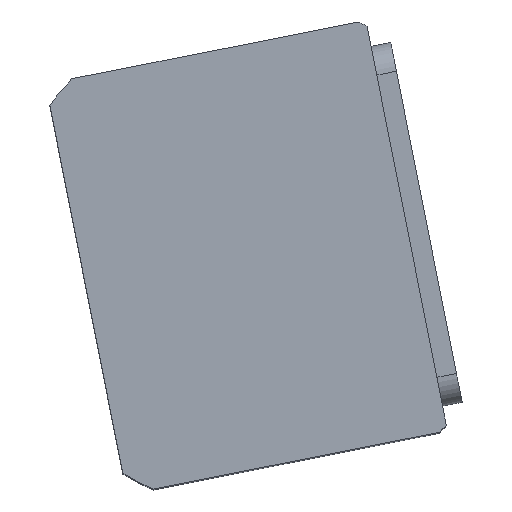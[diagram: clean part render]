
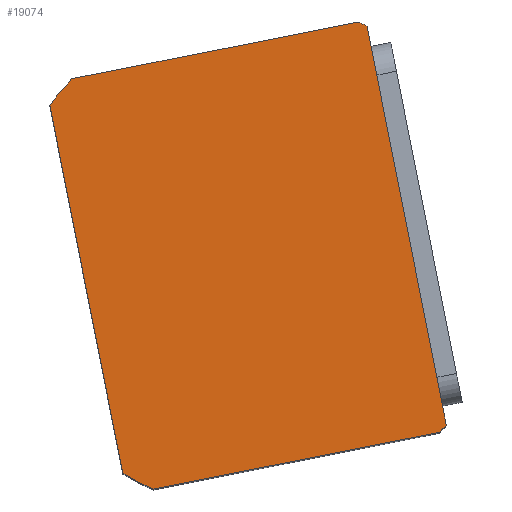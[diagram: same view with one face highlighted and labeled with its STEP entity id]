
A CAD part, top view. The second image highlights one B-rep face of the part: STEP entity #19074.
In plain terms, the highlighted planar face has unit normal (0, 0, 1) as drawn and (0, 0, -1) by its records, which use the part's own axes.
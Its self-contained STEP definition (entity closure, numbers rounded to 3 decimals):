
#319 = CARTESIAN_POINT ( 'NONE',  ( -51.14, -44.5, 0. ) ) ;
#527 = CARTESIAN_POINT ( 'NONE',  ( 57., 42.328, 0. ) ) ;
#632 = DIRECTION ( 'NONE',  ( 0., 0., 1. ) ) ;
#783 = LINE ( 'NONE', #6835, #4906 ) ;
#825 = PLANE ( 'NONE',  #2189 ) ;
#1003 = CARTESIAN_POINT ( 'NONE',  ( 0., 2.563, 0. ) ) ;
#1627 = CARTESIAN_POINT ( 'NONE',  ( -57., -37.202, 0. ) ) ;
#1706 = DIRECTION ( 'NONE',  ( 0., 1., 0. ) ) ;
#2189 = AXIS2_PLACEMENT_3D ( 'NONE', #2597, #22019, #6156 ) ;
#2244 = EDGE_CURVE ( 'NONE', #15530, #6175, #21831, .T. ) ;
#2597 = CARTESIAN_POINT ( 'NONE',  ( 0., 0., 0. ) ) ;
#2780 = DIRECTION ( 'NONE',  ( 1., 0., 0. ) ) ;
#2809 = EDGE_CURVE ( 'NONE', #19567, #9510, #783, .T. ) ;
#3046 = ORIENTED_EDGE ( 'NONE', *, *, #19741, .F. ) ;
#4692 = EDGE_CURVE ( 'NONE', #9510, #7772, #20196, .T. ) ;
#4906 = VECTOR ( 'NONE', #12080, 1000. ) ;
#5045 = AXIS2_PLACEMENT_3D ( 'NONE', #11194, #632, #12987 ) ;
#5242 = EDGE_LOOP ( 'NONE', ( #8330, #22177, #11050, #3046, #7664, #9451, #13796, #8054 ) ) ;
#5529 = CARTESIAN_POINT ( 'NONE',  ( 0., 2.563, 0. ) ) ;
#5796 = EDGE_CURVE ( 'NONE', #21569, #18870, #9366, .T. ) ;
#6156 = DIRECTION ( 'NONE',  ( 1., 0., 0. ) ) ;
#6175 = VERTEX_POINT ( 'NONE', #319 ) ;
#6659 = EDGE_CURVE ( 'NONE', #19393, #21569, #9063, .T. ) ;
#6835 = CARTESIAN_POINT ( 'NONE',  ( -57., 44.5, 0. ) ) ;
#7169 = CARTESIAN_POINT ( 'NONE',  ( -57., 42.328, 0. ) ) ;
#7303 = DIRECTION ( 'NONE',  ( 1., 0., 0. ) ) ;
#7585 = AXIS2_PLACEMENT_3D ( 'NONE', #5529, #17917, #7303 ) ;
#7586 = CARTESIAN_POINT ( 'NONE',  ( 57., -37.202, 0. ) ) ;
#7600 = LINE ( 'NONE', #18752, #17574 ) ;
#7664 = ORIENTED_EDGE ( 'NONE', *, *, #2244, .F. ) ;
#7772 = VERTEX_POINT ( 'NONE', #7169 ) ;
#8041 = AXIS2_PLACEMENT_3D ( 'NONE', #18895, #8271, #20649 ) ;
#8054 = ORIENTED_EDGE ( 'NONE', *, *, #2809, .F. ) ;
#8271 = DIRECTION ( 'NONE',  ( 0., 0., 1. ) ) ;
#8330 = ORIENTED_EDGE ( 'NONE', *, *, #12268, .F. ) ;
#8652 = CARTESIAN_POINT ( 'NONE',  ( -57., 44.5, 0. ) ) ;
#8887 = CIRCLE ( 'NONE', #7585, 69.5 ) ;
#9063 = CIRCLE ( 'NONE', #16204, 69.5 ) ;
#9366 = LINE ( 'NONE', #21122, #18793 ) ;
#9451 = ORIENTED_EDGE ( 'NONE', *, *, #10160, .F. ) ;
#9510 = VERTEX_POINT ( 'NONE', #17258 ) ;
#9963 = DIRECTION ( 'NONE',  ( 1., 0., 0. ) ) ;
#10160 = EDGE_CURVE ( 'NONE', #7772, #15530, #16964, .T. ) ;
#11050 = ORIENTED_EDGE ( 'NONE', *, *, #6659, .F. ) ;
#11194 = CARTESIAN_POINT ( 'NONE',  ( 0., 2.563, 0. ) ) ;
#12080 = DIRECTION ( 'NONE',  ( -1., 0., 0. ) ) ;
#12268 = EDGE_CURVE ( 'NONE', #18870, #19567, #8887, .T. ) ;
#12987 = DIRECTION ( 'NONE',  ( 1., 0., 0. ) ) ;
#13367 = DIRECTION ( 'NONE',  ( 0., 0., 1. ) ) ;
#13796 = ORIENTED_EDGE ( 'NONE', *, *, #4692, .F. ) ;
#14944 = CARTESIAN_POINT ( 'NONE',  ( 55.421, 44.5, 0. ) ) ;
#15530 = VERTEX_POINT ( 'NONE', #1627 ) ;
#16187 = FACE_OUTER_BOUND ( 'NONE', #5242, .T. ) ;
#16204 = AXIS2_PLACEMENT_3D ( 'NONE', #1003, #13367, #2780 ) ;
#16964 = LINE ( 'NONE', #8652, #21103 ) ;
#17258 = CARTESIAN_POINT ( 'NONE',  ( -55.421, 44.5, 0. ) ) ;
#17574 = VECTOR ( 'NONE', #9963, 1000. ) ;
#17917 = DIRECTION ( 'NONE',  ( 0., 0., 1. ) ) ;
#18752 = CARTESIAN_POINT ( 'NONE',  ( -57., -44.5, 0. ) ) ;
#18793 = VECTOR ( 'NONE', #1706, 1000. ) ;
#18870 = VERTEX_POINT ( 'NONE', #527 ) ;
#18895 = CARTESIAN_POINT ( 'NONE',  ( 0., 2.563, 0. ) ) ;
#19074 = ADVANCED_FACE ( 'NONE', ( #16187 ), #825, .F. ) ;
#19393 = VERTEX_POINT ( 'NONE', #20001 ) ;
#19567 = VERTEX_POINT ( 'NONE', #14944 ) ;
#19741 = EDGE_CURVE ( 'NONE', #6175, #19393, #7600, .T. ) ;
#20001 = CARTESIAN_POINT ( 'NONE',  ( 51.14, -44.5, 0. ) ) ;
#20196 = CIRCLE ( 'NONE', #8041, 69.5 ) ;
#20649 = DIRECTION ( 'NONE',  ( 1., 0., 0. ) ) ;
#21022 = DIRECTION ( 'NONE',  ( 0., -1., 0. ) ) ;
#21103 = VECTOR ( 'NONE', #21022, 1000. ) ;
#21122 = CARTESIAN_POINT ( 'NONE',  ( 57., 44.5, 0. ) ) ;
#21569 = VERTEX_POINT ( 'NONE', #7586 ) ;
#21831 = CIRCLE ( 'NONE', #5045, 69.5 ) ;
#22019 = DIRECTION ( 'NONE',  ( 0., 0., 1. ) ) ;
#22177 = ORIENTED_EDGE ( 'NONE', *, *, #5796, .F. ) ;
